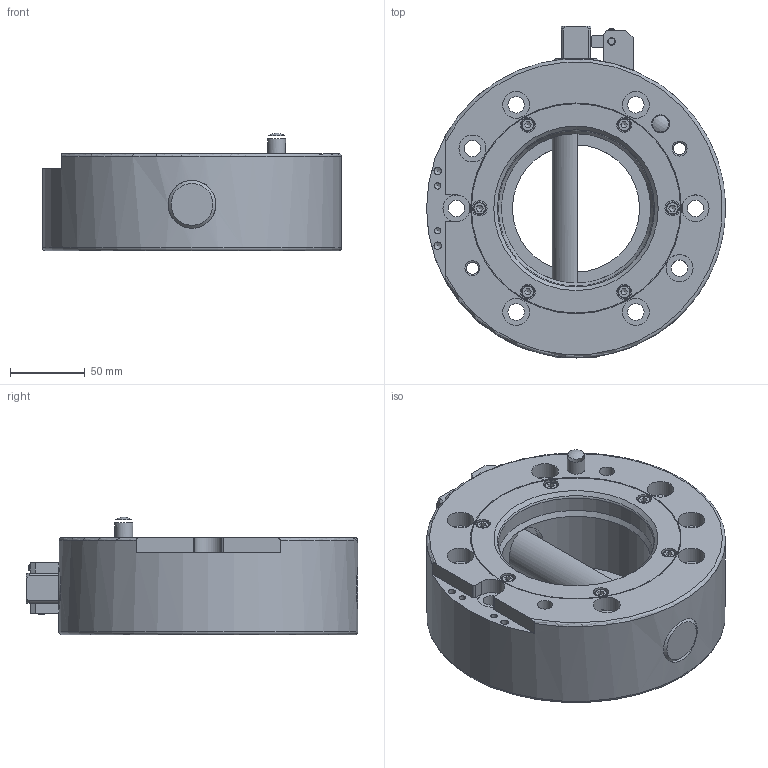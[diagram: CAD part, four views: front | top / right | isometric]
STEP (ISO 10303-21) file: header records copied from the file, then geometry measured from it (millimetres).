
FILE_DESCRIPTION(/* description */ (''),/* implementation_level */ '2;1');
FILE_NAME(/* name */ 'T:\G-SWS200-2OEN-BC01.stp',/* time_stamp */ '2022-05-25T10:54:18+02:00',/* author */ ('ysplieth'),/* organization */ (''),/* preprocessor_version */ 'ST-DEVELOPER v17',/* originating_system */ 'Autodesk Inventor 2018',/* authorisation */ '');
FILE_SCHEMA (('AUTOMOTIVE_DESIGN { 1 0 10303 214 3 1 1 }'));
Length unit declared in the file: millimetre
Products named in the file (1): Bauteil42
Bounding box: 200 x 222 x 78.53 mm (x, y, z)
Volume: 1496488.4 mm3; surface area: 172885.7 mm2
Topology: 2 solids, 13 shells, 375 faces, 1049 edges, 723 vertices
Faces by surface type: plane 164, cylinder 121, cone 68, torus 20, sphere 2
Full cylindrical faces by diameter (mm): 3.242 x2, 3.3 x1, 4 x3, 4.134 x6, 4.2 x2, 4.5 x2, 5 x11, 5.1 x2, 5.5 x7, 6.647 x2, 6.75 x4, 7 x2, 8 x6, 8.5 x6, 9 x1, 10 x13, 11 x8, 12 x2, 18 x8, 32 x3, 85 x1, 100 x1, 104 x1, 120 x1, 140 x1, 141 x1, 200 x1
Entity records: 13434 total; most frequent: CARTESIAN_POINT 3055, DIRECTION 2169, ORIENTED_EDGE 2048, EDGE_CURVE 1024, AXIS2_PLACEMENT_3D 886, VERTEX_POINT 723, CIRCLE 510, EDGE_LOOP 475
